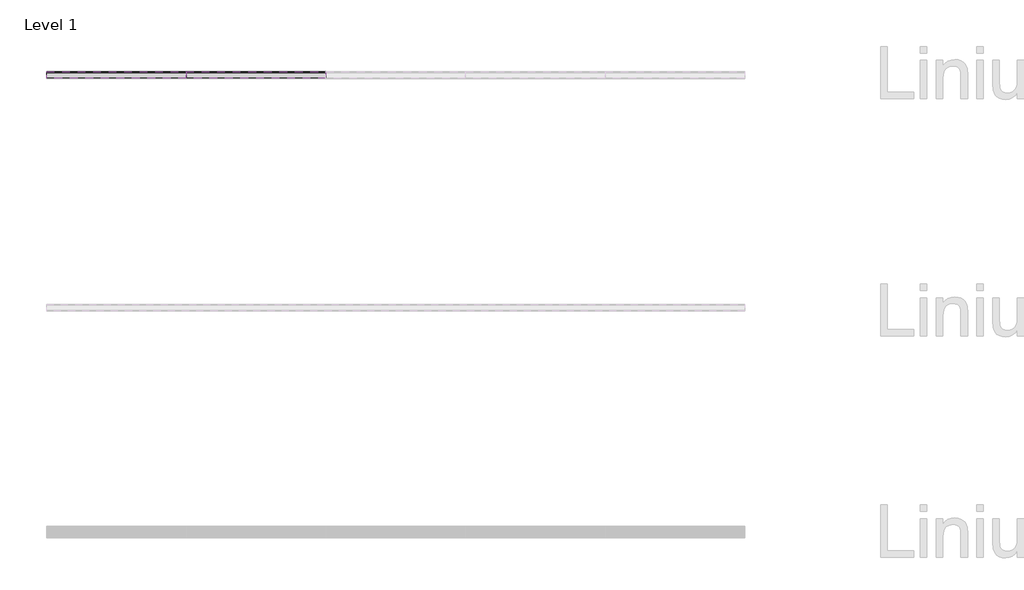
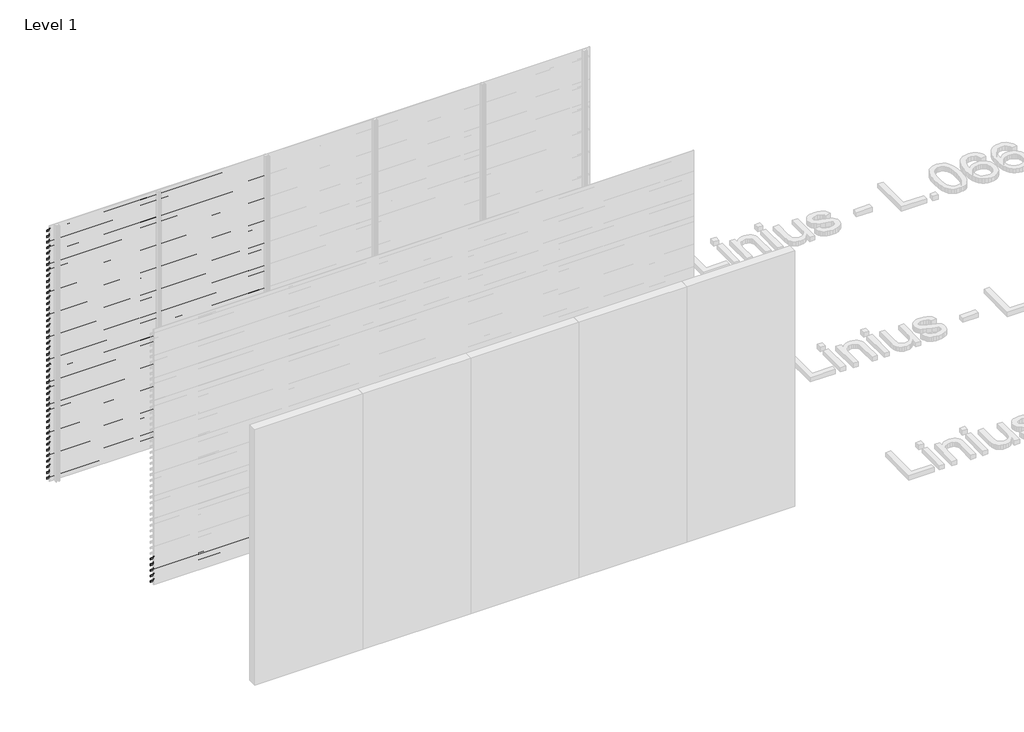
# One storey, part 86 of 540: 84 proxies.
"""IFC4 building model written with IfcOpenShell, lengths in millimetres."""

from ifc_helpers import new_model, si_unit, frame, origin, place, context, project, spatial, polyline, outline, extrude, element, save

model = new_model("IFC4")

# Units and contexts
model_context = context("Model", 3, world=origin())
ifc_project = project(units=[si_unit("LENGTHUNIT", "METRE", prefix="MILLI")], contexts=[model_context])

# Site, building, storey
site = spatial("IfcSite", under=ifc_project)
building = spatial("IfcBuilding", under=site)
storey = spatial("IfcBuildingStorey", under=building, Name="Level 1", Elevation=0.0)

# Proxies
placement = place(None, origin())
element("IfcBuildingElementProxy", 1, Name="Wall Sweeps", at=placement, inside=storey, context=model_context, shape_type="SweptSolid", body=[
    extrude(outline(polyline([(59081.0540136, 2913.5), (59081.0540136, 2893.5), (59079.8040136, 2894.2216933), (59079.8040136, 2912.7872415), (59026.0540136, 2950.3158044), (59026.0540136, 2970.0), (59027.3040136, 2970.0), (59027.3040136, 2951.0285629), (59081.0540136, 2913.5)])), frame((466.6208097, 0.0, 0.0), z_axis=(1.0, 0.0, 0.0), x_axis=(0.0, 1.0, 0.0)), (0.0, 0.0, 1.0), 1200.0000002),
])
element("IfcBuildingElementProxy", 2, Name="Wall Sweeps", at=placement, inside=storey, context=model_context, shape_type="SweptSolid", body=[
    extrude(outline(polyline([(59081.0540136, 2847.5), (59081.0540136, 2827.5), (59079.8040136, 2828.2216933), (59079.8040136, 2846.7872415), (59026.0540136, 2884.3158044), (59026.0540136, 2904.0), (59027.3040136, 2904.0), (59027.3040136, 2885.0285629), (59081.0540136, 2847.5)])), frame((466.6208097, 0.0, 0.0), z_axis=(1.0, 0.0, 0.0), x_axis=(0.0, 1.0, 0.0)), (0.0, 0.0, 1.0), 1200.0000002),
])
element("IfcBuildingElementProxy", 3, Name="Wall Sweeps", at=placement, inside=storey, context=model_context, shape_type="SweptSolid", body=[
    extrude(outline(polyline([(59081.0540136, 2781.5), (59081.0540136, 2761.5), (59079.8040136, 2762.2216933), (59079.8040136, 2780.7872415), (59026.0540136, 2818.3158044), (59026.0540136, 2838.0), (59027.3040136, 2838.0), (59027.3040136, 2819.0285629), (59081.0540136, 2781.5)])), frame((466.6208097, 0.0, 0.0), z_axis=(1.0, 0.0, 0.0), x_axis=(0.0, 1.0, 0.0)), (0.0, 0.0, 1.0), 1200.0000002),
])
element("IfcBuildingElementProxy", 4, Name="Wall Sweeps", at=placement, inside=storey, context=model_context, shape_type="SweptSolid", body=[
    extrude(outline(polyline([(59081.0540136, 2715.5), (59081.0540136, 2695.5), (59079.8040136, 2696.2216933), (59079.8040136, 2714.7872415), (59026.0540136, 2752.3158044), (59026.0540136, 2772.0), (59027.3040136, 2772.0), (59027.3040136, 2753.0285629), (59081.0540136, 2715.5)])), frame((466.6208097, 0.0, 0.0), z_axis=(1.0, 0.0, 0.0), x_axis=(0.0, 1.0, 0.0)), (0.0, 0.0, 1.0), 1200.0000002),
])
element("IfcBuildingElementProxy", 5, Name="Wall Sweeps", at=placement, inside=storey, context=model_context, shape_type="SweptSolid", body=[
    extrude(outline(polyline([(59081.0540136, 2649.5), (59081.0540136, 2629.5), (59079.8040136, 2630.2216933), (59079.8040136, 2648.7872415), (59026.0540136, 2686.3158044), (59026.0540136, 2706.0), (59027.3040136, 2706.0), (59027.3040136, 2687.0285629), (59081.0540136, 2649.5)])), frame((466.6208097, 0.0, 0.0), z_axis=(1.0, 0.0, 0.0), x_axis=(0.0, 1.0, 0.0)), (0.0, 0.0, 1.0), 1200.0000002),
])
element("IfcBuildingElementProxy", 6, Name="Wall Sweeps", at=placement, inside=storey, context=model_context, shape_type="SweptSolid", body=[
    extrude(outline(polyline([(59081.0540136, 2583.5), (59081.0540136, 2563.5), (59079.8040136, 2564.2216933), (59079.8040136, 2582.7872415), (59026.0540136, 2620.3158044), (59026.0540136, 2640.0), (59027.3040136, 2640.0), (59027.3040136, 2621.0285629), (59081.0540136, 2583.5)])), frame((466.6208097, 0.0, 0.0), z_axis=(1.0, 0.0, 0.0), x_axis=(0.0, 1.0, 0.0)), (0.0, 0.0, 1.0), 1200.0000002),
])
element("IfcBuildingElementProxy", 7, Name="Wall Sweeps", at=placement, inside=storey, context=model_context, shape_type="SweptSolid", body=[
    extrude(outline(polyline([(59081.0540136, 2517.5), (59081.0540136, 2497.5), (59079.8040136, 2498.2216933), (59079.8040136, 2516.7872415), (59026.0540136, 2554.3158044), (59026.0540136, 2574.0), (59027.3040136, 2574.0), (59027.3040136, 2555.0285629), (59081.0540136, 2517.5)])), frame((466.6208097, 0.0, 0.0), z_axis=(1.0, 0.0, 0.0), x_axis=(0.0, 1.0, 0.0)), (0.0, 0.0, 1.0), 1200.0000002),
])
element("IfcBuildingElementProxy", 8, Name="Wall Sweeps", at=placement, inside=storey, context=model_context, shape_type="SweptSolid", body=[
    extrude(outline(polyline([(59081.0540136, 2451.5), (59081.0540136, 2431.5), (59079.8040136, 2432.2216933), (59079.8040136, 2450.7872415), (59026.0540136, 2488.3158044), (59026.0540136, 2508.0), (59027.3040136, 2508.0), (59027.3040136, 2489.0285629), (59081.0540136, 2451.5)])), frame((466.6208097, 0.0, 0.0), z_axis=(1.0, 0.0, 0.0), x_axis=(0.0, 1.0, 0.0)), (0.0, 0.0, 1.0), 1200.0000002),
])
element("IfcBuildingElementProxy", 9, Name="Wall Sweeps", at=placement, inside=storey, context=model_context, shape_type="SweptSolid", body=[
    extrude(outline(polyline([(59081.0540136, 2385.5), (59081.0540136, 2365.5), (59079.8040136, 2366.2216933), (59079.8040136, 2384.7872415), (59026.0540136, 2422.3158044), (59026.0540136, 2442.0), (59027.3040136, 2442.0), (59027.3040136, 2423.0285629), (59081.0540136, 2385.5)])), frame((466.6208097, 0.0, 0.0), z_axis=(1.0, 0.0, 0.0), x_axis=(0.0, 1.0, 0.0)), (0.0, 0.0, 1.0), 1200.0000002),
])
element("IfcBuildingElementProxy", 10, Name="Wall Sweeps", at=placement, inside=storey, context=model_context, shape_type="SweptSolid", body=[
    extrude(outline(polyline([(59081.0540136, 2319.5), (59081.0540136, 2299.5), (59079.8040136, 2300.2216933), (59079.8040136, 2318.7872415), (59026.0540136, 2356.3158044), (59026.0540136, 2376.0), (59027.3040136, 2376.0), (59027.3040136, 2357.0285629), (59081.0540136, 2319.5)])), frame((466.6208097, 0.0, 0.0), z_axis=(1.0, 0.0, 0.0), x_axis=(0.0, 1.0, 0.0)), (0.0, 0.0, 1.0), 1200.0000002),
])
element("IfcBuildingElementProxy", 11, Name="Wall Sweeps", at=placement, inside=storey, context=model_context, shape_type="SweptSolid", body=[
    extrude(outline(polyline([(59081.0540136, 2253.5), (59081.0540136, 2233.5), (59079.8040136, 2234.2216933), (59079.8040136, 2252.7872415), (59026.0540136, 2290.3158044), (59026.0540136, 2310.0), (59027.3040136, 2310.0), (59027.3040136, 2291.0285629), (59081.0540136, 2253.5)])), frame((466.6208097, 0.0, 0.0), z_axis=(1.0, 0.0, 0.0), x_axis=(0.0, 1.0, 0.0)), (0.0, 0.0, 1.0), 1200.0000002),
])
element("IfcBuildingElementProxy", 12, Name="Wall Sweeps", at=placement, inside=storey, context=model_context, shape_type="SweptSolid", body=[
    extrude(outline(polyline([(59081.0540136, 2187.5), (59081.0540136, 2167.5), (59079.8040136, 2168.2216933), (59079.8040136, 2186.7872415), (59026.0540136, 2224.3158044), (59026.0540136, 2244.0), (59027.3040136, 2244.0), (59027.3040136, 2225.0285629), (59081.0540136, 2187.5)])), frame((466.6208097, 0.0, 0.0), z_axis=(1.0, 0.0, 0.0), x_axis=(0.0, 1.0, 0.0)), (0.0, 0.0, 1.0), 1200.0000002),
])
element("IfcBuildingElementProxy", 13, Name="Wall Sweeps", at=placement, inside=storey, context=model_context, shape_type="SweptSolid", body=[
    extrude(outline(polyline([(59081.0540136, 2121.5), (59081.0540136, 2101.5), (59079.8040136, 2102.2216933), (59079.8040136, 2120.7872415), (59026.0540136, 2158.3158044), (59026.0540136, 2178.0), (59027.3040136, 2178.0), (59027.3040136, 2159.0285629), (59081.0540136, 2121.5)])), frame((466.6208097, 0.0, 0.0), z_axis=(1.0, 0.0, 0.0), x_axis=(0.0, 1.0, 0.0)), (0.0, 0.0, 1.0), 1200.0000002),
])
element("IfcBuildingElementProxy", 14, Name="Wall Sweeps", at=placement, inside=storey, context=model_context, shape_type="SweptSolid", body=[
    extrude(outline(polyline([(59081.0540136, 2055.5), (59081.0540136, 2035.5), (59079.8040136, 2036.2216933), (59079.8040136, 2054.7872415), (59026.0540136, 2092.3158044), (59026.0540136, 2112.0), (59027.3040136, 2112.0), (59027.3040136, 2093.0285629), (59081.0540136, 2055.5)])), frame((466.6208097, 0.0, 0.0), z_axis=(1.0, 0.0, 0.0), x_axis=(0.0, 1.0, 0.0)), (0.0, 0.0, 1.0), 1200.0000002),
])
element("IfcBuildingElementProxy", 15, Name="Wall Sweeps", at=placement, inside=storey, context=model_context, shape_type="SweptSolid", body=[
    extrude(outline(polyline([(59081.0540136, 1989.5), (59081.0540136, 1969.5), (59079.8040136, 1970.2216933), (59079.8040136, 1988.7872415), (59026.0540136, 2026.3158044), (59026.0540136, 2046.0), (59027.3040136, 2046.0), (59027.3040136, 2027.0285629), (59081.0540136, 1989.5)])), frame((466.6208097, 0.0, 0.0), z_axis=(1.0, 0.0, 0.0), x_axis=(0.0, 1.0, 0.0)), (0.0, 0.0, 1.0), 1200.0000002),
])
element("IfcBuildingElementProxy", 16, Name="Wall Sweeps", at=placement, inside=storey, context=model_context, shape_type="SweptSolid", body=[
    extrude(outline(polyline([(59081.0540136, 1923.5), (59081.0540136, 1903.5), (59079.8040136, 1904.2216933), (59079.8040136, 1922.7872415), (59026.0540136, 1960.3158044), (59026.0540136, 1980.0), (59027.3040136, 1980.0), (59027.3040136, 1961.0285629), (59081.0540136, 1923.5)])), frame((466.6208097, 0.0, 0.0), z_axis=(1.0, 0.0, 0.0), x_axis=(0.0, 1.0, 0.0)), (0.0, 0.0, 1.0), 1200.0000002),
])
element("IfcBuildingElementProxy", 17, Name="Wall Sweeps", at=placement, inside=storey, context=model_context, shape_type="SweptSolid", body=[
    extrude(outline(polyline([(59081.0540136, 1857.5), (59081.0540136, 1837.5), (59079.8040136, 1838.2216933), (59079.8040136, 1856.7872415), (59026.0540136, 1894.3158044), (59026.0540136, 1914.0), (59027.3040136, 1914.0), (59027.3040136, 1895.0285629), (59081.0540136, 1857.5)])), frame((466.6208097, 0.0, 0.0), z_axis=(1.0, 0.0, 0.0), x_axis=(0.0, 1.0, 0.0)), (0.0, 0.0, 1.0), 1200.0000002),
])
element("IfcBuildingElementProxy", 18, Name="Wall Sweeps", at=placement, inside=storey, context=model_context, shape_type="SweptSolid", body=[
    extrude(outline(polyline([(59081.0540136, 1791.5), (59081.0540136, 1771.5), (59079.8040136, 1772.2216933), (59079.8040136, 1790.7872415), (59026.0540136, 1828.3158044), (59026.0540136, 1848.0), (59027.3040136, 1848.0), (59027.3040136, 1829.0285629), (59081.0540136, 1791.5)])), frame((466.6208097, 0.0, 0.0), z_axis=(1.0, 0.0, 0.0), x_axis=(0.0, 1.0, 0.0)), (0.0, 0.0, 1.0), 1200.0000002),
])
element("IfcBuildingElementProxy", 19, Name="Wall Sweeps", at=placement, inside=storey, context=model_context, shape_type="SweptSolid", body=[
    extrude(outline(polyline([(59081.0540136, 1725.5), (59081.0540136, 1705.5), (59079.8040136, 1706.2216933), (59079.8040136, 1724.7872415), (59026.0540136, 1762.3158044), (59026.0540136, 1782.0), (59027.3040136, 1782.0), (59027.3040136, 1763.0285629), (59081.0540136, 1725.5)])), frame((466.6208097, 0.0, 0.0), z_axis=(1.0, 0.0, 0.0), x_axis=(0.0, 1.0, 0.0)), (0.0, 0.0, 1.0), 1200.0000002),
])
element("IfcBuildingElementProxy", 20, Name="Wall Sweeps", at=placement, inside=storey, context=model_context, shape_type="SweptSolid", body=[
    extrude(outline(polyline([(59081.0540136, 1659.5), (59081.0540136, 1639.5), (59079.8040136, 1640.2216933), (59079.8040136, 1658.7872415), (59026.0540136, 1696.3158044), (59026.0540136, 1716.0), (59027.3040136, 1716.0), (59027.3040136, 1697.0285629), (59081.0540136, 1659.5)])), frame((466.6208097, 0.0, 0.0), z_axis=(1.0, 0.0, 0.0), x_axis=(0.0, 1.0, 0.0)), (0.0, 0.0, 1.0), 1200.0000002),
])
element("IfcBuildingElementProxy", 21, Name="Wall Sweeps", at=placement, inside=storey, context=model_context, shape_type="SweptSolid", body=[
    extrude(outline(polyline([(59081.0540136, 1593.5), (59081.0540136, 1573.5), (59079.8040136, 1574.2216933), (59079.8040136, 1592.7872415), (59026.0540136, 1630.3158044), (59026.0540136, 1650.0), (59027.3040136, 1650.0), (59027.3040136, 1631.0285629), (59081.0540136, 1593.5)])), frame((466.6208097, 0.0, 0.0), z_axis=(1.0, 0.0, 0.0), x_axis=(0.0, 1.0, 0.0)), (0.0, 0.0, 1.0), 1200.0000002),
])
element("IfcBuildingElementProxy", 22, Name="Wall Sweeps", at=placement, inside=storey, context=model_context, shape_type="SweptSolid", body=[
    extrude(outline(polyline([(59081.0540136, 1527.5), (59081.0540136, 1507.5), (59079.8040136, 1508.2216933), (59079.8040136, 1526.7872415), (59026.0540136, 1564.3158044), (59026.0540136, 1584.0), (59027.3040136, 1584.0), (59027.3040136, 1565.0285629), (59081.0540136, 1527.5)])), frame((466.6208097, 0.0, 0.0), z_axis=(1.0, 0.0, 0.0), x_axis=(0.0, 1.0, 0.0)), (0.0, 0.0, 1.0), 1200.0000002),
])
element("IfcBuildingElementProxy", 23, Name="Wall Sweeps", at=placement, inside=storey, context=model_context, shape_type="SweptSolid", body=[
    extrude(outline(polyline([(59081.0540136, 1461.5), (59081.0540136, 1441.5), (59079.8040136, 1442.2216933), (59079.8040136, 1460.7872415), (59026.0540136, 1498.3158044), (59026.0540136, 1518.0), (59027.3040136, 1518.0), (59027.3040136, 1499.0285629), (59081.0540136, 1461.5)])), frame((466.6208097, 0.0, 0.0), z_axis=(1.0, 0.0, 0.0), x_axis=(0.0, 1.0, 0.0)), (0.0, 0.0, 1.0), 1200.0000002),
])
element("IfcBuildingElementProxy", 24, Name="Wall Sweeps", at=placement, inside=storey, context=model_context, shape_type="SweptSolid", body=[
    extrude(outline(polyline([(59081.0540136, 1395.5), (59081.0540136, 1375.5), (59079.8040136, 1376.2216933), (59079.8040136, 1394.7872415), (59026.0540136, 1432.3158044), (59026.0540136, 1452.0), (59027.3040136, 1452.0), (59027.3040136, 1433.0285629), (59081.0540136, 1395.5)])), frame((466.6208097, 0.0, 0.0), z_axis=(1.0, 0.0, 0.0), x_axis=(0.0, 1.0, 0.0)), (0.0, 0.0, 1.0), 1200.0000002),
])
element("IfcBuildingElementProxy", 25, Name="Wall Sweeps", at=placement, inside=storey, context=model_context, shape_type="SweptSolid", body=[
    extrude(outline(polyline([(59081.0540136, 1329.5), (59081.0540136, 1309.5), (59079.8040136, 1310.2216933), (59079.8040136, 1328.7872415), (59026.0540136, 1366.3158044), (59026.0540136, 1386.0), (59027.3040136, 1386.0), (59027.3040136, 1367.0285629), (59081.0540136, 1329.5)])), frame((466.6208097, 0.0, 0.0), z_axis=(1.0, 0.0, 0.0), x_axis=(0.0, 1.0, 0.0)), (0.0, 0.0, 1.0), 1200.0000002),
])
element("IfcBuildingElementProxy", 26, Name="Wall Sweeps", at=placement, inside=storey, context=model_context, shape_type="SweptSolid", body=[
    extrude(outline(polyline([(59081.0540136, 1263.5), (59081.0540136, 1243.5), (59079.8040136, 1244.2216933), (59079.8040136, 1262.7872415), (59026.0540136, 1300.3158044), (59026.0540136, 1320.0), (59027.3040136, 1320.0), (59027.3040136, 1301.0285629), (59081.0540136, 1263.5)])), frame((466.6208097, 0.0, 0.0), z_axis=(1.0, 0.0, 0.0), x_axis=(0.0, 1.0, 0.0)), (0.0, 0.0, 1.0), 1200.0000002),
])
element("IfcBuildingElementProxy", 27, Name="Wall Sweeps", at=placement, inside=storey, context=model_context, shape_type="SweptSolid", body=[
    extrude(outline(polyline([(59081.0540136, 1197.5), (59081.0540136, 1177.5), (59079.8040136, 1178.2216933), (59079.8040136, 1196.7872415), (59026.0540136, 1234.3158044), (59026.0540136, 1254.0), (59027.3040136, 1254.0), (59027.3040136, 1235.0285629), (59081.0540136, 1197.5)])), frame((466.6208097, 0.0, 0.0), z_axis=(1.0, 0.0, 0.0), x_axis=(0.0, 1.0, 0.0)), (0.0, 0.0, 1.0), 1200.0000002),
])
element("IfcBuildingElementProxy", 28, Name="Wall Sweeps", at=placement, inside=storey, context=model_context, shape_type="SweptSolid", body=[
    extrude(outline(polyline([(59081.0540136, 1131.5), (59081.0540136, 1111.5), (59079.8040136, 1112.2216933), (59079.8040136, 1130.7872415), (59026.0540136, 1168.3158044), (59026.0540136, 1188.0), (59027.3040136, 1188.0), (59027.3040136, 1169.0285629), (59081.0540136, 1131.5)])), frame((466.6208097, 0.0, 0.0), z_axis=(1.0, 0.0, 0.0), x_axis=(0.0, 1.0, 0.0)), (0.0, 0.0, 1.0), 1200.0000002),
])
element("IfcBuildingElementProxy", 29, Name="Wall Sweeps", at=placement, inside=storey, context=model_context, shape_type="SweptSolid", body=[
    extrude(outline(polyline([(59081.0540136, 1065.5), (59081.0540136, 1045.5), (59079.8040136, 1046.2216933), (59079.8040136, 1064.7872415), (59026.0540136, 1102.3158044), (59026.0540136, 1122.0), (59027.3040136, 1122.0), (59027.3040136, 1103.0285629), (59081.0540136, 1065.5)])), frame((466.6208097, 0.0, 0.0), z_axis=(1.0, 0.0, 0.0), x_axis=(0.0, 1.0, 0.0)), (0.0, 0.0, 1.0), 1200.0000002),
])
element("IfcBuildingElementProxy", 30, Name="Wall Sweeps", at=placement, inside=storey, context=model_context, shape_type="SweptSolid", body=[
    extrude(outline(polyline([(59081.0540136, 999.5), (59081.0540136, 979.5), (59079.8040136, 980.2216933), (59079.8040136, 998.7872415), (59026.0540136, 1036.3158044), (59026.0540136, 1056.0), (59027.3040136, 1056.0), (59027.3040136, 1037.0285629), (59081.0540136, 999.5)])), frame((466.6208097, 0.0, 0.0), z_axis=(1.0, 0.0, 0.0), x_axis=(0.0, 1.0, 0.0)), (0.0, 0.0, 1.0), 1200.0000002),
])
element("IfcBuildingElementProxy", 31, Name="Wall Sweeps", at=placement, inside=storey, context=model_context, shape_type="SweptSolid", body=[
    extrude(outline(polyline([(59081.0540136, 933.5), (59081.0540136, 913.5), (59079.8040136, 914.2216933), (59079.8040136, 932.7872415), (59026.0540136, 970.3158044), (59026.0540136, 990.0), (59027.3040136, 990.0), (59027.3040136, 971.0285629), (59081.0540136, 933.5)])), frame((466.6208097, 0.0, 0.0), z_axis=(1.0, 0.0, 0.0), x_axis=(0.0, 1.0, 0.0)), (0.0, 0.0, 1.0), 1200.0000002),
])
element("IfcBuildingElementProxy", 32, Name="Wall Sweeps", at=placement, inside=storey, context=model_context, shape_type="SweptSolid", body=[
    extrude(outline(polyline([(59081.0540136, 867.5), (59081.0540136, 847.5), (59079.8040136, 848.2216933), (59079.8040136, 866.7872415), (59026.0540136, 904.3158044), (59026.0540136, 924.0), (59027.3040136, 924.0), (59027.3040136, 905.0285629), (59081.0540136, 867.5)])), frame((466.6208097, 0.0, 0.0), z_axis=(1.0, 0.0, 0.0), x_axis=(0.0, 1.0, 0.0)), (0.0, 0.0, 1.0), 1200.0000002),
])
element("IfcBuildingElementProxy", 33, Name="Wall Sweeps", at=placement, inside=storey, context=model_context, shape_type="SweptSolid", body=[
    extrude(outline(polyline([(59081.0540136, 801.5), (59081.0540136, 781.5), (59079.8040136, 782.2216933), (59079.8040136, 800.7872415), (59026.0540136, 838.3158044), (59026.0540136, 858.0), (59027.3040136, 858.0), (59027.3040136, 839.0285629), (59081.0540136, 801.5)])), frame((466.6208097, 0.0, 0.0), z_axis=(1.0, 0.0, 0.0), x_axis=(0.0, 1.0, 0.0)), (0.0, 0.0, 1.0), 1200.0000002),
])
element("IfcBuildingElementProxy", 34, Name="Wall Sweeps", at=placement, inside=storey, context=model_context, shape_type="SweptSolid", body=[
    extrude(outline(polyline([(59081.0540136, 735.5), (59081.0540136, 715.5), (59079.8040136, 716.2216933), (59079.8040136, 734.7872415), (59026.0540136, 772.3158044), (59026.0540136, 792.0), (59027.3040136, 792.0), (59027.3040136, 773.0285629), (59081.0540136, 735.5)])), frame((466.6208097, 0.0, 0.0), z_axis=(1.0, 0.0, 0.0), x_axis=(0.0, 1.0, 0.0)), (0.0, 0.0, 1.0), 1200.0000002),
])
element("IfcBuildingElementProxy", 35, Name="Wall Sweeps", at=placement, inside=storey, context=model_context, shape_type="SweptSolid", body=[
    extrude(outline(polyline([(59081.0540136, 669.5), (59081.0540136, 649.5), (59079.8040136, 650.2216933), (59079.8040136, 668.7872415), (59026.0540136, 706.3158044), (59026.0540136, 726.0), (59027.3040136, 726.0), (59027.3040136, 707.0285629), (59081.0540136, 669.5)])), frame((466.6208097, 0.0, 0.0), z_axis=(1.0, 0.0, 0.0), x_axis=(0.0, 1.0, 0.0)), (0.0, 0.0, 1.0), 1200.0000002),
])
element("IfcBuildingElementProxy", 36, Name="Wall Sweeps", at=placement, inside=storey, context=model_context, shape_type="SweptSolid", body=[
    extrude(outline(polyline([(59081.0540136, 603.5), (59081.0540136, 583.5), (59079.8040136, 584.2216933), (59079.8040136, 602.7872415), (59026.0540136, 640.3158044), (59026.0540136, 660.0), (59027.3040136, 660.0), (59027.3040136, 641.0285629), (59081.0540136, 603.5)])), frame((466.6208097, 0.0, 0.0), z_axis=(1.0, 0.0, 0.0), x_axis=(0.0, 1.0, 0.0)), (0.0, 0.0, 1.0), 1200.0000002),
])
element("IfcBuildingElementProxy", 37, Name="Wall Sweeps", at=placement, inside=storey, context=model_context, shape_type="SweptSolid", body=[
    extrude(outline(polyline([(59081.0540136, 537.5), (59081.0540136, 517.5), (59079.8040136, 518.2216933), (59079.8040136, 536.7872415), (59026.0540136, 574.3158044), (59026.0540136, 594.0), (59027.3040136, 594.0), (59027.3040136, 575.0285629), (59081.0540136, 537.5)])), frame((466.6208097, 0.0, 0.0), z_axis=(1.0, 0.0, 0.0), x_axis=(0.0, 1.0, 0.0)), (0.0, 0.0, 1.0), 1200.0000002),
])
element("IfcBuildingElementProxy", 38, Name="Wall Sweeps", at=placement, inside=storey, context=model_context, shape_type="SweptSolid", body=[
    extrude(outline(polyline([(59081.0540136, 471.5), (59081.0540136, 451.5), (59079.8040136, 452.2216933), (59079.8040136, 470.7872415), (59026.0540136, 508.3158044), (59026.0540136, 528.0), (59027.3040136, 528.0), (59027.3040136, 509.0285629), (59081.0540136, 471.5)])), frame((466.6208097, 0.0, 0.0), z_axis=(1.0, 0.0, 0.0), x_axis=(0.0, 1.0, 0.0)), (0.0, 0.0, 1.0), 1200.0000002),
])
element("IfcBuildingElementProxy", 39, Name="Wall Sweeps", at=placement, inside=storey, context=model_context, shape_type="SweptSolid", body=[
    extrude(outline(polyline([(59081.0540136, 405.5), (59081.0540136, 385.5), (59079.8040136, 386.2216933), (59079.8040136, 404.7872415), (59026.0540136, 442.3158044), (59026.0540136, 462.0), (59027.3040136, 462.0), (59027.3040136, 443.0285629), (59081.0540136, 405.5)])), frame((466.6208097, 0.0, 0.0), z_axis=(1.0, 0.0, 0.0), x_axis=(0.0, 1.0, 0.0)), (0.0, 0.0, 1.0), 1200.0000002),
])
element("IfcBuildingElementProxy", 40, Name="Wall Sweeps", at=placement, inside=storey, context=model_context, shape_type="SweptSolid", body=[
    extrude(outline(polyline([(59081.0540136, 339.5), (59081.0540136, 319.5), (59079.8040136, 320.2216933), (59079.8040136, 338.7872415), (59026.0540136, 376.3158044), (59026.0540136, 396.0), (59027.3040136, 396.0), (59027.3040136, 377.0285629), (59081.0540136, 339.5)])), frame((466.6208097, 0.0, 0.0), z_axis=(1.0, 0.0, 0.0), x_axis=(0.0, 1.0, 0.0)), (0.0, 0.0, 1.0), 1200.0000002),
])
element("IfcBuildingElementProxy", 41, Name="Wall Sweeps", at=placement, inside=storey, context=model_context, shape_type="SweptSolid", body=[
    extrude(outline(polyline([(59081.0540136, 273.5), (59081.0540136, 253.5), (59079.8040136, 254.2216933), (59079.8040136, 272.7872415), (59026.0540136, 310.3158044), (59026.0540136, 330.0), (59027.3040136, 330.0), (59027.3040136, 311.0285629), (59081.0540136, 273.5)])), frame((466.6208097, 0.0, 0.0), z_axis=(1.0, 0.0, 0.0), x_axis=(0.0, 1.0, 0.0)), (0.0, 0.0, 1.0), 1200.0000002),
])
element("IfcBuildingElementProxy", 42, Name="Wall Sweeps", at=placement, inside=storey, context=model_context, shape_type="SweptSolid", body=[
    extrude(outline(polyline([(59081.0540136, 207.5), (59081.0540136, 187.5), (59079.8040136, 188.2216933), (59079.8040136, 206.7872415), (59026.0540136, 244.3158044), (59026.0540136, 264.0), (59027.3040136, 264.0), (59027.3040136, 245.0285629), (59081.0540136, 207.5)])), frame((466.6208097, 0.0, 0.0), z_axis=(1.0, 0.0, 0.0), x_axis=(0.0, 1.0, 0.0)), (0.0, 0.0, 1.0), 1200.0000002),
])
element("IfcBuildingElementProxy", 43, Name="Wall Sweeps", at=placement, inside=storey, context=model_context, shape_type="SweptSolid", body=[
    extrude(outline(polyline([(59081.0540136, 141.5), (59081.0540136, 121.5), (59079.8040136, 122.2216933), (59079.8040136, 140.7872415), (59026.0540136, 178.3158044), (59026.0540136, 198.0), (59027.3040136, 198.0), (59027.3040136, 179.0285629), (59081.0540136, 141.5)])), frame((466.6208097, 0.0, 0.0), z_axis=(1.0, 0.0, 0.0), x_axis=(0.0, 1.0, 0.0)), (0.0, 0.0, 1.0), 1200.0000002),
])
element("IfcBuildingElementProxy", 44, Name="Wall Sweeps", at=placement, inside=storey, context=model_context, shape_type="SweptSolid", body=[
    extrude(outline(polyline([(59081.0540136, 75.5), (59081.0540136, 55.5), (59079.8040136, 56.2216933), (59079.8040136, 74.7872415), (59026.0540136, 112.3158044), (59026.0540136, 132.0), (59027.3040136, 132.0), (59027.3040136, 113.0285629), (59081.0540136, 75.5)])), frame((466.6208097, 0.0, 0.0), z_axis=(1.0, 0.0, 0.0), x_axis=(0.0, 1.0, 0.0)), (0.0, 0.0, 1.0), 1200.0000002),
])
element("IfcBuildingElementProxy", 45, Name="Wall Sweeps", at=placement, inside=storey, context=model_context, shape_type="SweptSolid", body=[
    extrude(outline(polyline([(59081.0540136, 9.5), (59081.0540136, -10.5), (59079.8040136, -9.7783067), (59079.8040136, 8.7872415), (59026.0540136, 46.3158044), (59026.0540136, 66.0), (59027.3040136, 66.0), (59027.3040136, 47.0285629), (59081.0540136, 9.5)])), frame((466.6208097, 0.0, 0.0), z_axis=(1.0, 0.0, 0.0), x_axis=(0.0, 1.0, 0.0)), (0.0, 0.0, 1.0), 1200.0000002),
])
element("IfcBuildingElementProxy", 46, Name="Wall Sweeps", at=placement, inside=storey, context=model_context, shape_type="SweptSolid", body=[
    extrude(outline(polyline([(59081.0540136, 2913.5), (59081.0540136, 2893.5), (59079.8040136, 2894.2216933), (59079.8040136, 2912.7872415), (59026.0540136, 2950.3158044), (59026.0540136, 2970.0), (59027.3040136, 2970.0), (59027.3040136, 2951.0285629), (59081.0540136, 2913.5)])), frame((1666.6208099, 0.0, 0.0), z_axis=(1.0, 0.0, 0.0), x_axis=(0.0, 1.0, 0.0)), (0.0, 0.0, 1.0), 1199.9999999),
])
element("IfcBuildingElementProxy", 47, Name="Wall Sweeps", at=placement, inside=storey, context=model_context, shape_type="SweptSolid", body=[
    extrude(outline(polyline([(59081.0540136, 2847.5), (59081.0540136, 2827.5), (59079.8040136, 2828.2216933), (59079.8040136, 2846.7872415), (59026.0540136, 2884.3158044), (59026.0540136, 2904.0), (59027.3040136, 2904.0), (59027.3040136, 2885.0285629), (59081.0540136, 2847.5)])), frame((1666.6208099, 0.0, 0.0), z_axis=(1.0, 0.0, 0.0), x_axis=(0.0, 1.0, 0.0)), (0.0, 0.0, 1.0), 1199.9999999),
])
element("IfcBuildingElementProxy", 48, Name="Wall Sweeps", at=placement, inside=storey, context=model_context, shape_type="SweptSolid", body=[
    extrude(outline(polyline([(59081.0540136, 2781.5), (59081.0540136, 2761.5), (59079.8040136, 2762.2216933), (59079.8040136, 2780.7872415), (59026.0540136, 2818.3158044), (59026.0540136, 2838.0), (59027.3040136, 2838.0), (59027.3040136, 2819.0285629), (59081.0540136, 2781.5)])), frame((1666.6208099, 0.0, 0.0), z_axis=(1.0, 0.0, 0.0), x_axis=(0.0, 1.0, 0.0)), (0.0, 0.0, 1.0), 1199.9999999),
])
element("IfcBuildingElementProxy", 49, Name="Wall Sweeps", at=placement, inside=storey, context=model_context, shape_type="SweptSolid", body=[
    extrude(outline(polyline([(59081.0540136, 2715.5), (59081.0540136, 2695.5), (59079.8040136, 2696.2216933), (59079.8040136, 2714.7872415), (59026.0540136, 2752.3158044), (59026.0540136, 2772.0), (59027.3040136, 2772.0), (59027.3040136, 2753.0285629), (59081.0540136, 2715.5)])), frame((1666.6208099, 0.0, 0.0), z_axis=(1.0, 0.0, 0.0), x_axis=(0.0, 1.0, 0.0)), (0.0, 0.0, 1.0), 1199.9999999),
])
element("IfcBuildingElementProxy", 50, Name="Wall Sweeps", at=placement, inside=storey, context=model_context, shape_type="SweptSolid", body=[
    extrude(outline(polyline([(59081.0540136, 2649.5), (59081.0540136, 2629.5), (59079.8040136, 2630.2216933), (59079.8040136, 2648.7872415), (59026.0540136, 2686.3158044), (59026.0540136, 2706.0), (59027.3040136, 2706.0), (59027.3040136, 2687.0285629), (59081.0540136, 2649.5)])), frame((1666.6208099, 0.0, 0.0), z_axis=(1.0, 0.0, 0.0), x_axis=(0.0, 1.0, 0.0)), (0.0, 0.0, 1.0), 1199.9999999),
])
element("IfcBuildingElementProxy", 51, Name="Wall Sweeps", at=placement, inside=storey, context=model_context, shape_type="SweptSolid", body=[
    extrude(outline(polyline([(59081.0540136, 2583.5), (59081.0540136, 2563.5), (59079.8040136, 2564.2216933), (59079.8040136, 2582.7872415), (59026.0540136, 2620.3158044), (59026.0540136, 2640.0), (59027.3040136, 2640.0), (59027.3040136, 2621.0285629), (59081.0540136, 2583.5)])), frame((1666.6208099, 0.0, 0.0), z_axis=(1.0, 0.0, 0.0), x_axis=(0.0, 1.0, 0.0)), (0.0, 0.0, 1.0), 1199.9999999),
])
element("IfcBuildingElementProxy", 52, Name="Wall Sweeps", at=placement, inside=storey, context=model_context, shape_type="SweptSolid", body=[
    extrude(outline(polyline([(59081.0540136, 2517.5), (59081.0540136, 2497.5), (59079.8040136, 2498.2216933), (59079.8040136, 2516.7872415), (59026.0540136, 2554.3158044), (59026.0540136, 2574.0), (59027.3040136, 2574.0), (59027.3040136, 2555.0285629), (59081.0540136, 2517.5)])), frame((1666.6208099, 0.0, 0.0), z_axis=(1.0, 0.0, 0.0), x_axis=(0.0, 1.0, 0.0)), (0.0, 0.0, 1.0), 1199.9999999),
])
element("IfcBuildingElementProxy", 53, Name="Wall Sweeps", at=placement, inside=storey, context=model_context, shape_type="SweptSolid", body=[
    extrude(outline(polyline([(59081.0540136, 2451.5), (59081.0540136, 2431.5), (59079.8040136, 2432.2216933), (59079.8040136, 2450.7872415), (59026.0540136, 2488.3158044), (59026.0540136, 2508.0), (59027.3040136, 2508.0), (59027.3040136, 2489.0285629), (59081.0540136, 2451.5)])), frame((1666.6208099, 0.0, 0.0), z_axis=(1.0, 0.0, 0.0), x_axis=(0.0, 1.0, 0.0)), (0.0, 0.0, 1.0), 1199.9999999),
])
element("IfcBuildingElementProxy", 54, Name="Wall Sweeps", at=placement, inside=storey, context=model_context, shape_type="SweptSolid", body=[
    extrude(outline(polyline([(59081.0540136, 2385.5), (59081.0540136, 2365.5), (59079.8040136, 2366.2216933), (59079.8040136, 2384.7872415), (59026.0540136, 2422.3158044), (59026.0540136, 2442.0), (59027.3040136, 2442.0), (59027.3040136, 2423.0285629), (59081.0540136, 2385.5)])), frame((1666.6208099, 0.0, 0.0), z_axis=(1.0, 0.0, 0.0), x_axis=(0.0, 1.0, 0.0)), (0.0, 0.0, 1.0), 1199.9999999),
])
element("IfcBuildingElementProxy", 55, Name="Wall Sweeps", at=placement, inside=storey, context=model_context, shape_type="SweptSolid", body=[
    extrude(outline(polyline([(59081.0540136, 2319.5), (59081.0540136, 2299.5), (59079.8040136, 2300.2216933), (59079.8040136, 2318.7872415), (59026.0540136, 2356.3158044), (59026.0540136, 2376.0), (59027.3040136, 2376.0), (59027.3040136, 2357.0285629), (59081.0540136, 2319.5)])), frame((1666.6208099, 0.0, 0.0), z_axis=(1.0, 0.0, 0.0), x_axis=(0.0, 1.0, 0.0)), (0.0, 0.0, 1.0), 1199.9999999),
])
element("IfcBuildingElementProxy", 56, Name="Wall Sweeps", at=placement, inside=storey, context=model_context, shape_type="SweptSolid", body=[
    extrude(outline(polyline([(59081.0540136, 2253.5), (59081.0540136, 2233.5), (59079.8040136, 2234.2216933), (59079.8040136, 2252.7872415), (59026.0540136, 2290.3158044), (59026.0540136, 2310.0), (59027.3040136, 2310.0), (59027.3040136, 2291.0285629), (59081.0540136, 2253.5)])), frame((1666.6208099, 0.0, 0.0), z_axis=(1.0, 0.0, 0.0), x_axis=(0.0, 1.0, 0.0)), (0.0, 0.0, 1.0), 1199.9999999),
])
element("IfcBuildingElementProxy", 57, Name="Wall Sweeps", at=placement, inside=storey, context=model_context, shape_type="SweptSolid", body=[
    extrude(outline(polyline([(59081.0540136, 2187.5), (59081.0540136, 2167.5), (59079.8040136, 2168.2216933), (59079.8040136, 2186.7872415), (59026.0540136, 2224.3158044), (59026.0540136, 2244.0), (59027.3040136, 2244.0), (59027.3040136, 2225.0285629), (59081.0540136, 2187.5)])), frame((1666.6208099, 0.0, 0.0), z_axis=(1.0, 0.0, 0.0), x_axis=(0.0, 1.0, 0.0)), (0.0, 0.0, 1.0), 1199.9999999),
])
element("IfcBuildingElementProxy", 58, Name="Wall Sweeps", at=placement, inside=storey, context=model_context, shape_type="SweptSolid", body=[
    extrude(outline(polyline([(59081.0540136, 2121.5), (59081.0540136, 2101.5), (59079.8040136, 2102.2216933), (59079.8040136, 2120.7872415), (59026.0540136, 2158.3158044), (59026.0540136, 2178.0), (59027.3040136, 2178.0), (59027.3040136, 2159.0285629), (59081.0540136, 2121.5)])), frame((1666.6208099, 0.0, 0.0), z_axis=(1.0, 0.0, 0.0), x_axis=(0.0, 1.0, 0.0)), (0.0, 0.0, 1.0), 1199.9999999),
])
element("IfcBuildingElementProxy", 59, Name="Wall Sweeps", at=placement, inside=storey, context=model_context, shape_type="SweptSolid", body=[
    extrude(outline(polyline([(59081.0540136, 2055.5), (59081.0540136, 2035.5), (59079.8040136, 2036.2216933), (59079.8040136, 2054.7872415), (59026.0540136, 2092.3158044), (59026.0540136, 2112.0), (59027.3040136, 2112.0), (59027.3040136, 2093.0285629), (59081.0540136, 2055.5)])), frame((1666.6208099, 0.0, 0.0), z_axis=(1.0, 0.0, 0.0), x_axis=(0.0, 1.0, 0.0)), (0.0, 0.0, 1.0), 1199.9999999),
])
element("IfcBuildingElementProxy", 60, Name="Wall Sweeps", at=placement, inside=storey, context=model_context, shape_type="SweptSolid", body=[
    extrude(outline(polyline([(59081.0540136, 1989.5), (59081.0540136, 1969.5), (59079.8040136, 1970.2216933), (59079.8040136, 1988.7872415), (59026.0540136, 2026.3158044), (59026.0540136, 2046.0), (59027.3040136, 2046.0), (59027.3040136, 2027.0285629), (59081.0540136, 1989.5)])), frame((1666.6208099, 0.0, 0.0), z_axis=(1.0, 0.0, 0.0), x_axis=(0.0, 1.0, 0.0)), (0.0, 0.0, 1.0), 1199.9999999),
])
element("IfcBuildingElementProxy", 61, Name="Wall Sweeps", at=placement, inside=storey, context=model_context, shape_type="SweptSolid", body=[
    extrude(outline(polyline([(59081.0540136, 1923.5), (59081.0540136, 1903.5), (59079.8040136, 1904.2216933), (59079.8040136, 1922.7872415), (59026.0540136, 1960.3158044), (59026.0540136, 1980.0), (59027.3040136, 1980.0), (59027.3040136, 1961.0285629), (59081.0540136, 1923.5)])), frame((1666.6208099, 0.0, 0.0), z_axis=(1.0, 0.0, 0.0), x_axis=(0.0, 1.0, 0.0)), (0.0, 0.0, 1.0), 1199.9999999),
])
element("IfcBuildingElementProxy", 62, Name="Wall Sweeps", at=placement, inside=storey, context=model_context, shape_type="SweptSolid", body=[
    extrude(outline(polyline([(59081.0540136, 1857.5), (59081.0540136, 1837.5), (59079.8040136, 1838.2216933), (59079.8040136, 1856.7872415), (59026.0540136, 1894.3158044), (59026.0540136, 1914.0), (59027.3040136, 1914.0), (59027.3040136, 1895.0285629), (59081.0540136, 1857.5)])), frame((1666.6208099, 0.0, 0.0), z_axis=(1.0, 0.0, 0.0), x_axis=(0.0, 1.0, 0.0)), (0.0, 0.0, 1.0), 1199.9999999),
])
element("IfcBuildingElementProxy", 63, Name="Wall Sweeps", at=placement, inside=storey, context=model_context, shape_type="SweptSolid", body=[
    extrude(outline(polyline([(59081.0540136, 1791.5), (59081.0540136, 1771.5), (59079.8040136, 1772.2216933), (59079.8040136, 1790.7872415), (59026.0540136, 1828.3158044), (59026.0540136, 1848.0), (59027.3040136, 1848.0), (59027.3040136, 1829.0285629), (59081.0540136, 1791.5)])), frame((1666.6208099, 0.0, 0.0), z_axis=(1.0, 0.0, 0.0), x_axis=(0.0, 1.0, 0.0)), (0.0, 0.0, 1.0), 1199.9999999),
])
element("IfcBuildingElementProxy", 64, Name="Wall Sweeps", at=placement, inside=storey, context=model_context, shape_type="SweptSolid", body=[
    extrude(outline(polyline([(59081.0540136, 1725.5), (59081.0540136, 1705.5), (59079.8040136, 1706.2216933), (59079.8040136, 1724.7872415), (59026.0540136, 1762.3158044), (59026.0540136, 1782.0), (59027.3040136, 1782.0), (59027.3040136, 1763.0285629), (59081.0540136, 1725.5)])), frame((1666.6208099, 0.0, 0.0), z_axis=(1.0, 0.0, 0.0), x_axis=(0.0, 1.0, 0.0)), (0.0, 0.0, 1.0), 1199.9999999),
])
element("IfcBuildingElementProxy", 65, Name="Wall Sweeps", at=placement, inside=storey, context=model_context, shape_type="SweptSolid", body=[
    extrude(outline(polyline([(59081.0540136, 1659.5), (59081.0540136, 1639.5), (59079.8040136, 1640.2216933), (59079.8040136, 1658.7872415), (59026.0540136, 1696.3158044), (59026.0540136, 1716.0), (59027.3040136, 1716.0), (59027.3040136, 1697.0285629), (59081.0540136, 1659.5)])), frame((1666.6208099, 0.0, 0.0), z_axis=(1.0, 0.0, 0.0), x_axis=(0.0, 1.0, 0.0)), (0.0, 0.0, 1.0), 1199.9999999),
])
element("IfcBuildingElementProxy", 66, Name="Wall Sweeps", at=placement, inside=storey, context=model_context, shape_type="SweptSolid", body=[
    extrude(outline(polyline([(59081.0540136, 1593.5), (59081.0540136, 1573.5), (59079.8040136, 1574.2216933), (59079.8040136, 1592.7872415), (59026.0540136, 1630.3158044), (59026.0540136, 1650.0), (59027.3040136, 1650.0), (59027.3040136, 1631.0285629), (59081.0540136, 1593.5)])), frame((1666.6208099, 0.0, 0.0), z_axis=(1.0, 0.0, 0.0), x_axis=(0.0, 1.0, 0.0)), (0.0, 0.0, 1.0), 1199.9999999),
])
element("IfcBuildingElementProxy", 67, Name="Wall Sweeps", at=placement, inside=storey, context=model_context, shape_type="SweptSolid", body=[
    extrude(outline(polyline([(59081.0540136, 1527.5), (59081.0540136, 1507.5), (59079.8040136, 1508.2216933), (59079.8040136, 1526.7872415), (59026.0540136, 1564.3158044), (59026.0540136, 1584.0), (59027.3040136, 1584.0), (59027.3040136, 1565.0285629), (59081.0540136, 1527.5)])), frame((1666.6208099, 0.0, 0.0), z_axis=(1.0, 0.0, 0.0), x_axis=(0.0, 1.0, 0.0)), (0.0, 0.0, 1.0), 1199.9999999),
])
element("IfcBuildingElementProxy", 68, Name="Wall Sweeps", at=placement, inside=storey, context=model_context, shape_type="SweptSolid", body=[
    extrude(outline(polyline([(59081.0540136, 1461.5), (59081.0540136, 1441.5), (59079.8040136, 1442.2216933), (59079.8040136, 1460.7872415), (59026.0540136, 1498.3158044), (59026.0540136, 1518.0), (59027.3040136, 1518.0), (59027.3040136, 1499.0285629), (59081.0540136, 1461.5)])), frame((1666.6208099, 0.0, 0.0), z_axis=(1.0, 0.0, 0.0), x_axis=(0.0, 1.0, 0.0)), (0.0, 0.0, 1.0), 1199.9999999),
])
element("IfcBuildingElementProxy", 69, Name="Wall Sweeps", at=placement, inside=storey, context=model_context, shape_type="SweptSolid", body=[
    extrude(outline(polyline([(59081.0540136, 1395.5), (59081.0540136, 1375.5), (59079.8040136, 1376.2216933), (59079.8040136, 1394.7872415), (59026.0540136, 1432.3158044), (59026.0540136, 1452.0), (59027.3040136, 1452.0), (59027.3040136, 1433.0285629), (59081.0540136, 1395.5)])), frame((1666.6208099, 0.0, 0.0), z_axis=(1.0, 0.0, 0.0), x_axis=(0.0, 1.0, 0.0)), (0.0, 0.0, 1.0), 1199.9999999),
])
element("IfcBuildingElementProxy", 70, Name="Wall Sweeps", at=placement, inside=storey, context=model_context, shape_type="SweptSolid", body=[
    extrude(outline(polyline([(59081.0540136, 1329.5), (59081.0540136, 1309.5), (59079.8040136, 1310.2216933), (59079.8040136, 1328.7872415), (59026.0540136, 1366.3158044), (59026.0540136, 1386.0), (59027.3040136, 1386.0), (59027.3040136, 1367.0285629), (59081.0540136, 1329.5)])), frame((1666.6208099, 0.0, 0.0), z_axis=(1.0, 0.0, 0.0), x_axis=(0.0, 1.0, 0.0)), (0.0, 0.0, 1.0), 1199.9999999),
])
element("IfcBuildingElementProxy", 71, Name="Wall Sweeps", at=placement, inside=storey, context=model_context, shape_type="SweptSolid", body=[
    extrude(outline(polyline([(59081.0540136, 1263.5), (59081.0540136, 1243.5), (59079.8040136, 1244.2216933), (59079.8040136, 1262.7872415), (59026.0540136, 1300.3158044), (59026.0540136, 1320.0), (59027.3040136, 1320.0), (59027.3040136, 1301.0285629), (59081.0540136, 1263.5)])), frame((1666.6208099, 0.0, 0.0), z_axis=(1.0, 0.0, 0.0), x_axis=(0.0, 1.0, 0.0)), (0.0, 0.0, 1.0), 1199.9999999),
])
element("IfcBuildingElementProxy", 72, Name="Wall Sweeps", at=placement, inside=storey, context=model_context, shape_type="SweptSolid", body=[
    extrude(outline(polyline([(59081.0540136, 1197.5), (59081.0540136, 1177.5), (59079.8040136, 1178.2216933), (59079.8040136, 1196.7872415), (59026.0540136, 1234.3158044), (59026.0540136, 1254.0), (59027.3040136, 1254.0), (59027.3040136, 1235.0285629), (59081.0540136, 1197.5)])), frame((1666.6208099, 0.0, 0.0), z_axis=(1.0, 0.0, 0.0), x_axis=(0.0, 1.0, 0.0)), (0.0, 0.0, 1.0), 1199.9999999),
])
element("IfcBuildingElementProxy", 73, Name="Wall Sweeps", at=placement, inside=storey, context=model_context, shape_type="SweptSolid", body=[
    extrude(outline(polyline([(59081.0540136, 1131.5), (59081.0540136, 1111.5), (59079.8040136, 1112.2216933), (59079.8040136, 1130.7872415), (59026.0540136, 1168.3158044), (59026.0540136, 1188.0), (59027.3040136, 1188.0), (59027.3040136, 1169.0285629), (59081.0540136, 1131.5)])), frame((1666.6208099, 0.0, 0.0), z_axis=(1.0, 0.0, 0.0), x_axis=(0.0, 1.0, 0.0)), (0.0, 0.0, 1.0), 1199.9999999),
])
element("IfcBuildingElementProxy", 74, Name="Wall Sweeps", at=placement, inside=storey, context=model_context, shape_type="SweptSolid", body=[
    extrude(outline(polyline([(59081.0540136, 1065.5), (59081.0540136, 1045.5), (59079.8040136, 1046.2216933), (59079.8040136, 1064.7872415), (59026.0540136, 1102.3158044), (59026.0540136, 1122.0), (59027.3040136, 1122.0), (59027.3040136, 1103.0285629), (59081.0540136, 1065.5)])), frame((1666.6208099, 0.0, 0.0), z_axis=(1.0, 0.0, 0.0), x_axis=(0.0, 1.0, 0.0)), (0.0, 0.0, 1.0), 1199.9999999),
])
element("IfcBuildingElementProxy", 75, Name="Wall Sweeps", at=placement, inside=storey, context=model_context, shape_type="SweptSolid", body=[
    extrude(outline(polyline([(59081.0540136, 999.5), (59081.0540136, 979.5), (59079.8040136, 980.2216933), (59079.8040136, 998.7872415), (59026.0540136, 1036.3158044), (59026.0540136, 1056.0), (59027.3040136, 1056.0), (59027.3040136, 1037.0285629), (59081.0540136, 999.5)])), frame((1666.6208099, 0.0, 0.0), z_axis=(1.0, 0.0, 0.0), x_axis=(0.0, 1.0, 0.0)), (0.0, 0.0, 1.0), 1199.9999999),
])
element("IfcBuildingElementProxy", 76, Name="Wall Sweeps", at=placement, inside=storey, context=model_context, shape_type="SweptSolid", body=[
    extrude(outline(polyline([(59081.0540136, 933.5), (59081.0540136, 913.5), (59079.8040136, 914.2216933), (59079.8040136, 932.7872415), (59026.0540136, 970.3158044), (59026.0540136, 990.0), (59027.3040136, 990.0), (59027.3040136, 971.0285629), (59081.0540136, 933.5)])), frame((1666.6208099, 0.0, 0.0), z_axis=(1.0, 0.0, 0.0), x_axis=(0.0, 1.0, 0.0)), (0.0, 0.0, 1.0), 1199.9999999),
])
element("IfcBuildingElementProxy", 77, Name="Wall Sweeps", at=placement, inside=storey, context=model_context, shape_type="SweptSolid", body=[
    extrude(outline(polyline([(59081.0540136, 867.5), (59081.0540136, 847.5), (59079.8040136, 848.2216933), (59079.8040136, 866.7872415), (59026.0540136, 904.3158044), (59026.0540136, 924.0), (59027.3040136, 924.0), (59027.3040136, 905.0285629), (59081.0540136, 867.5)])), frame((1666.6208099, 0.0, 0.0), z_axis=(1.0, 0.0, 0.0), x_axis=(0.0, 1.0, 0.0)), (0.0, 0.0, 1.0), 1199.9999999),
])
element("IfcBuildingElementProxy", 78, Name="Wall Sweeps", at=placement, inside=storey, context=model_context, shape_type="SweptSolid", body=[
    extrude(outline(polyline([(59081.0540136, 801.5), (59081.0540136, 781.5), (59079.8040136, 782.2216933), (59079.8040136, 800.7872415), (59026.0540136, 838.3158044), (59026.0540136, 858.0), (59027.3040136, 858.0), (59027.3040136, 839.0285629), (59081.0540136, 801.5)])), frame((1666.6208099, 0.0, 0.0), z_axis=(1.0, 0.0, 0.0), x_axis=(0.0, 1.0, 0.0)), (0.0, 0.0, 1.0), 1199.9999999),
])
element("IfcBuildingElementProxy", 79, Name="Wall Sweeps", at=placement, inside=storey, context=model_context, shape_type="SweptSolid", body=[
    extrude(outline(polyline([(59081.0540136, 735.5), (59081.0540136, 715.5), (59079.8040136, 716.2216933), (59079.8040136, 734.7872415), (59026.0540136, 772.3158044), (59026.0540136, 792.0), (59027.3040136, 792.0), (59027.3040136, 773.0285629), (59081.0540136, 735.5)])), frame((1666.6208099, 0.0, 0.0), z_axis=(1.0, 0.0, 0.0), x_axis=(0.0, 1.0, 0.0)), (0.0, 0.0, 1.0), 1199.9999999),
])
element("IfcBuildingElementProxy", 80, Name="Wall Sweeps", at=placement, inside=storey, context=model_context, shape_type="SweptSolid", body=[
    extrude(outline(polyline([(57081.0540136, 273.5), (57081.0540136, 253.5), (57079.8040136, 254.2216933), (57079.8040136, 272.7872415), (57026.0540136, 310.3158044), (57026.0540136, 330.0), (57027.3040136, 330.0), (57027.3040136, 311.0285629), (57081.0540136, 273.5)])), frame((466.6208097, 0.0, 0.0), z_axis=(1.0, 0.0, 0.0), x_axis=(0.0, 1.0, 0.0)), (0.0, 0.0, 1.0), 6000.0),
])
element("IfcBuildingElementProxy", 81, Name="Wall Sweeps", at=placement, inside=storey, context=model_context, shape_type="SweptSolid", body=[
    extrude(outline(polyline([(57081.0540136, 207.5), (57081.0540136, 187.5), (57079.8040136, 188.2216933), (57079.8040136, 206.7872415), (57026.0540136, 244.3158044), (57026.0540136, 264.0), (57027.3040136, 264.0), (57027.3040136, 245.0285629), (57081.0540136, 207.5)])), frame((466.6208097, 0.0, 0.0), z_axis=(1.0, 0.0, 0.0), x_axis=(0.0, 1.0, 0.0)), (0.0, 0.0, 1.0), 6000.0),
])
element("IfcBuildingElementProxy", 82, Name="Wall Sweeps", at=placement, inside=storey, context=model_context, shape_type="SweptSolid", body=[
    extrude(outline(polyline([(57081.0540136, 141.5), (57081.0540136, 121.5), (57079.8040136, 122.2216933), (57079.8040136, 140.7872415), (57026.0540136, 178.3158044), (57026.0540136, 198.0), (57027.3040136, 198.0), (57027.3040136, 179.0285629), (57081.0540136, 141.5)])), frame((466.6208097, 0.0, 0.0), z_axis=(1.0, 0.0, 0.0), x_axis=(0.0, 1.0, 0.0)), (0.0, 0.0, 1.0), 6000.0),
])
element("IfcBuildingElementProxy", 83, Name="Wall Sweeps", at=placement, inside=storey, context=model_context, shape_type="SweptSolid", body=[
    extrude(outline(polyline([(57081.0540136, 75.5), (57081.0540136, 55.5), (57079.8040136, 56.2216933), (57079.8040136, 74.7872415), (57026.0540136, 112.3158044), (57026.0540136, 132.0), (57027.3040136, 132.0), (57027.3040136, 113.0285629), (57081.0540136, 75.5)])), frame((466.6208097, 0.0, 0.0), z_axis=(1.0, 0.0, 0.0), x_axis=(0.0, 1.0, 0.0)), (0.0, 0.0, 1.0), 6000.0),
])
element("IfcBuildingElementProxy", 84, Name="Wall Sweeps", at=placement, inside=storey, context=model_context, shape_type="SweptSolid", body=[
    extrude(outline(polyline([(57081.0540136, 9.5), (57081.0540136, -10.5), (57079.8040136, -9.7783067), (57079.8040136, 8.7872415), (57026.0540136, 46.3158044), (57026.0540136, 66.0), (57027.3040136, 66.0), (57027.3040136, 47.0285629), (57081.0540136, 9.5)])), frame((466.6208097, 0.0, 0.0), z_axis=(1.0, 0.0, 0.0), x_axis=(0.0, 1.0, 0.0)), (0.0, 0.0, 1.0), 6000.0),
])

save(model, "model.ifc")
